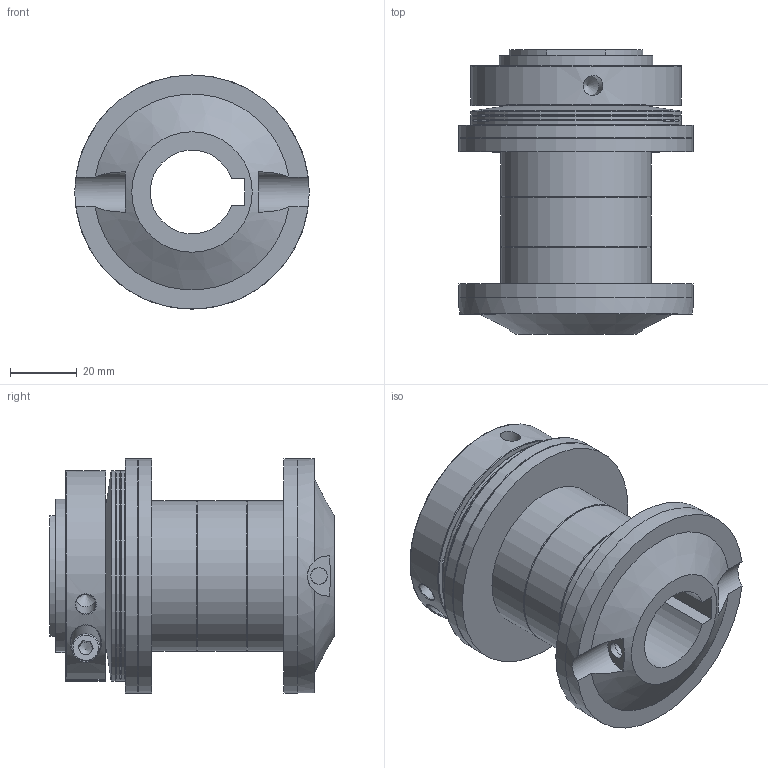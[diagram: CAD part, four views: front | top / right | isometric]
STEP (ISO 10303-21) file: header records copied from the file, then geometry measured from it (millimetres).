
FILE_DESCRIPTION(/* description */ (''),/* implementation_level */ '2;1');
FILE_NAME(/* name */ 'R:\UTP\progettazione\3D_INVENTOR\SPECIALI - FINITI\DF\COMPLESSIVI\DF-ML\1-70 DF-ML GR d25.stp',/* time_stamp */ '2023-02-22T10:01:32+01:00',/* author */ ('alice.eterno'),/* organization */ (''),/* preprocessor_version */ 'ST-DEVELOPER v18.1',/* originating_system */ 'Autodesk Inventor 2022',/* authorisation */ '');
FILE_SCHEMA (('AUTOMOTIVE_DESIGN { 1 0 10303 214 3 1 1 }'));
Length unit declared in the file: millimetre
Products named in the file (1): 1-70 DF-ML GR d25_Semplifica_1
Bounding box: 70 x 85 x 70 mm (x, y, z)
Volume: 146814.2 mm3; surface area: 48791.2 mm2
Topology: 1 solids, 2 shells, 139 faces, 375 edges, 237 vertices
Faces by surface type: cylinder 54, plane 48, torus 20, cone 9, bspline 4, sphere 4
Full cylindrical faces by diameter (mm): 4.134 x1, 5 x1, 5.001 x2, 5.5 x1, 6 x5, 8.5 x1, 9 x1, 41 x3, 45 x5, 63 x3, 69.99 x2, 70 x2
Entity records: 6452 total; most frequent: CARTESIAN_POINT 2673, DIRECTION 770, ORIENTED_EDGE 734, EDGE_CURVE 367, AXIS2_PLACEMENT_3D 308, VERTEX_POINT 237, CIRCLE 172, EDGE_LOOP 165
